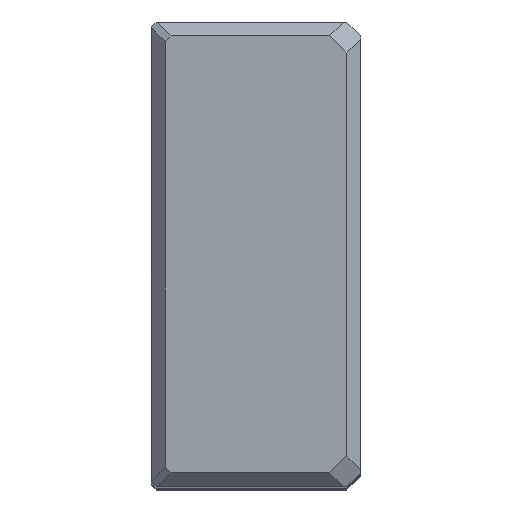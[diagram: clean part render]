
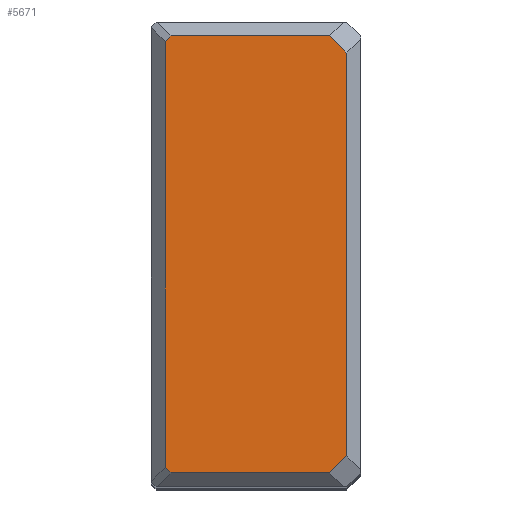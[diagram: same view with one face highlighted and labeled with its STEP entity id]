
A CAD part, top view. The second image highlights one B-rep face of the part: STEP entity #5671.
In plain terms, the highlighted planar face has unit normal (0, 0, 1).
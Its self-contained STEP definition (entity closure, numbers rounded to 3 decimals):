
#95=VERTEX_POINT(' ',#96);
#96=CARTESIAN_POINT('',(-3.,-43.326,0.));
#97=VERTEX_POINT(' ',#98);
#98=CARTESIAN_POINT('',(-6.674,-47.,0.));
#127=VERTEX_POINT(' ',#128);
#128=CARTESIAN_POINT('',(-3.,43.326,0.));
#135=VERTEX_POINT(' ',#136);
#136=CARTESIAN_POINT('',(-6.674,47.,0.));
#161=VERTEX_POINT(' ',#162);
#162=CARTESIAN_POINT('',(-40.775,-47.,0.));
#169=VERTEX_POINT(' ',#170);
#170=CARTESIAN_POINT('',(-42.,-45.775,0.));
#189=VERTEX_POINT(' ',#190);
#190=CARTESIAN_POINT('',(-42.,45.775,0.));
#193=VERTEX_POINT(' ',#194);
#194=CARTESIAN_POINT('',(-40.775,47.,0.));
#1136=LINE('',#1137,#1138);
#1137=CARTESIAN_POINT('',(20.163,-20.163,0.));
#1138=VECTOR('',#1139,1.);
#1139=DIRECTION('',(0.707,0.707,0.));
#1140=EDGE_CURVE(' ',#95,#97,#1136,.F.);
#1266=LINE('',#1267,#1268);
#1267=CARTESIAN_POINT('',(-3.,-50.12,0.));
#1268=VECTOR('',#1269,1.);
#1269=DIRECTION('',(0.,1.,0.));
#1270=EDGE_CURVE(' ',#95,#127,#1266,.T.);
#1291=LINE('',#1292,#1293);
#1292=CARTESIAN_POINT('',(20.163,20.163,0.));
#1293=VECTOR('',#1294,1.);
#1294=DIRECTION('',(-0.707,0.707,0.));
#1295=EDGE_CURVE(' ',#135,#127,#1291,.F.);
#1441=LINE('',#1442,#1443);
#1442=CARTESIAN_POINT('',(-45.12,-47.,0.));
#1443=VECTOR('',#1444,1.);
#1444=DIRECTION('',(1.,0.,0.));
#1445=EDGE_CURVE(' ',#161,#97,#1441,.T.);
#1456=LINE('',#1457,#1458);
#1457=CARTESIAN_POINT('',(-43.888,-43.888,0.));
#1458=VECTOR('',#1459,1.);
#1459=DIRECTION('',(0.707,-0.707,0.));
#1460=EDGE_CURVE(' ',#161,#169,#1456,.F.);
#1553=LINE('',#1554,#1555);
#1554=CARTESIAN_POINT('',(-42.,-50.12,0.));
#1555=VECTOR('',#1556,1.);
#1556=DIRECTION('',(0.,1.,0.));
#1557=EDGE_CURVE(' ',#169,#189,#1553,.T.);
#1558=LINE('',#1559,#1560);
#1559=CARTESIAN_POINT('',(-43.888,43.888,0.));
#1560=VECTOR('',#1561,1.);
#1561=DIRECTION('',(-0.707,-0.707,0.));
#1562=EDGE_CURVE(' ',#189,#193,#1558,.F.);
#1563=LINE('',#1564,#1565);
#1564=CARTESIAN_POINT('',(-45.12,47.,0.));
#1565=VECTOR('',#1566,1.);
#1566=DIRECTION('',(1.,0.,0.));
#1567=EDGE_CURVE(' ',#135,#193,#1563,.F.);
#5656=ORIENTED_EDGE('',*,*,#1562,.F.);
#5657=ORIENTED_EDGE('',*,*,#1557,.F.);
#5658=ORIENTED_EDGE('',*,*,#1460,.F.);
#5659=ORIENTED_EDGE('',*,*,#1445,.T.);
#5660=ORIENTED_EDGE('',*,*,#1140,.F.);
#5661=ORIENTED_EDGE('',*,*,#1270,.T.);
#5662=ORIENTED_EDGE('',*,*,#1295,.F.);
#5663=ORIENTED_EDGE('',*,*,#1567,.T.);
#5664=EDGE_LOOP('',(#5656,#5657,#5658,#5659,#5660,#5661,#5662,#5663));
#5665=FACE_OUTER_BOUND('',#5664,.T.);
#5666=PLANE('',#5667);
#5667=AXIS2_PLACEMENT_3D('',#5668,#5669,#5670);
#5668=CARTESIAN_POINT('',(-42.,0.,0.));
#5669=DIRECTION('',(0.,0.,1.));
#5670=DIRECTION('',(1.,0.,0.));
#5671=ADVANCED_FACE('',(#5665),#5666,.T.);
